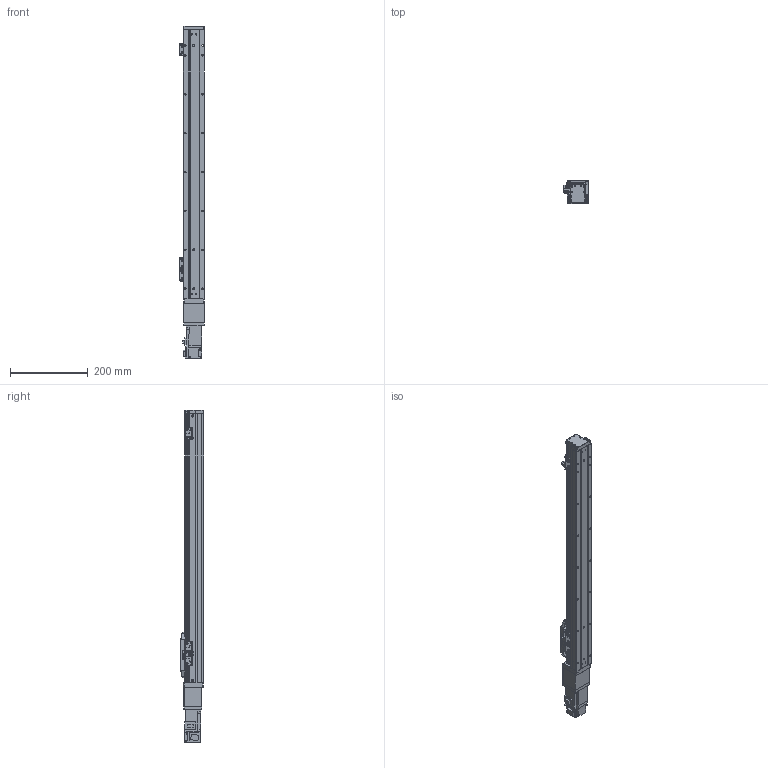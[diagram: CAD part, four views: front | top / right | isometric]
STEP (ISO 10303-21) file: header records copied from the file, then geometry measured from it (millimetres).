
FILE_DESCRIPTION (( 'STEP AP203' ), '1' );
FILE_NAME ('GTH5-550-BC-M10-C4.step', '2022-09-23T00:40:32', ( '微软用户' ), ( '微软中国' ), 'SwSTEP 2.0', 'SolidWorks 2020', '' );
FILE_SCHEMA (( 'CONFIG_CONTROL_DESIGN' ));
Length unit declared in the file: millimetre
Products named in the file (20): GTH50-024; HG-KR13; GTH50-006; GTH50-013; GBT 70.1-M2.5×6; GTH5-550-BC-M10-C4; GTH50-004; GTH50-028; GBT 70.3-M3℅6; GTH50-022-1; BTH-M3X5X6; GTH50-023; CTHA60-027; GTH50-001_550; GBT 70.1-M3℅6; CTHA60-013; GBT 70.1-M4×16; GBT96.1-2002 3×0.8; CTHA60-006-2_CTHA60-006-1; GTH50-003
Assembly tree (60 placements, depth 2):
  GTH5-550-BC-M10-C4
    GTH50-006
    GTH50-004
    GBT 70.3-M3℅6  x6
    BTH-M3X5X6  x8
    GTH50-001_550
    GBT 70.1-M4×16  x8
    GTH50-003
    GTH50-013
    GTH50-023  x3
    GBT 70.1-M3℅6  x12
    GBT96.1-2002 3×0.8  x6
    GTH50-024  x3
    GBT 70.1-M2.5×6  x2
    GTH50-028  x2
    GTH50-022-1
    CTHA60-027
    CTHA60-013
    CTHA60-006-2_CTHA60-006-1
    HG-KR13
Bounding box: 63.8 x 60 x 852.6 mm (x, y, z)
Volume: 1771118.9 mm3; surface area: 284955.2 mm2
Topology: 62 solids, 62 shells, 2053 faces, 4716 edges, 2878 vertices
Faces by surface type: plane 1105, cylinder 547, cone 235, torus 158, sphere 8
Entity records: 34255 total; most frequent: DIRECTION 5535, CARTESIAN_POINT 5415, ORIENTED_EDGE 5118, EDGE_CURVE 2559, AXIS2_PLACEMENT_3D 1904, LINE 1727, VECTOR 1727, VERTEX_POINT 1618
